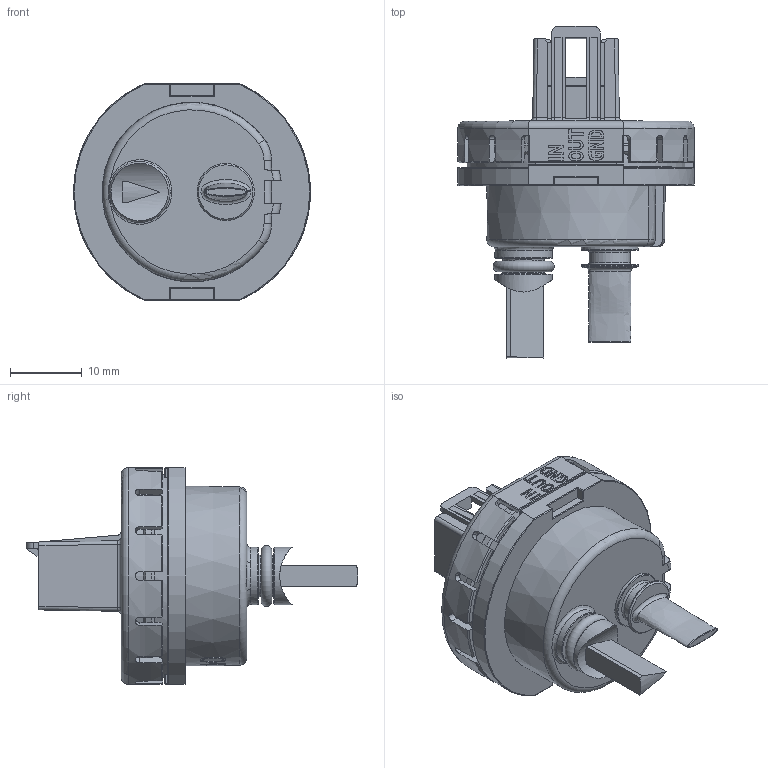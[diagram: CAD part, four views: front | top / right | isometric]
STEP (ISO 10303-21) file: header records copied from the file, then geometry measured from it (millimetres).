
FILE_DESCRIPTION(/* description */ (''),/* implementation_level */ '2;1');
FILE_NAME(/* name */ '201_x10x2x.stp',/* time_stamp */ '2023-06-28T09:54:15+02:00',/* author */ ('uch10180'),/* organization */ (''),/* preprocessor_version */ 'ST-DEVELOPER v19.2',/* originating_system */ 'Autodesk Inventor 2023',/* authorisation */ '');
FILE_SCHEMA (('AUTOMOTIVE_DESIGN { 1 0 10303 214 3 1 1 }'));
Length unit declared in the file: millimetre
Products named in the file (1): model1
Bounding box: 33 x 46.25 x 30.2 mm (x, y, z)
Volume: 12246.9 mm3; surface area: 5886.6 mm2
Topology: 1 solids, 1 shells, 735 faces, 2028 edges, 1315 vertices
Faces by surface type: plane 406, cylinder 171, bspline 76, cone 51, torus 27, sphere 4
Full cylindrical faces by diameter (mm): 1.145 x2, 5.76 x3, 7.98 x4
Entity records: 29353 total; most frequent: CARTESIAN_POINT 9930, ORIENTED_EDGE 4048, DIRECTION 3735, EDGE_CURVE 2024, VERTEX_POINT 1315, AXIS2_PLACEMENT_3D 1254, LINE 1227, VECTOR 1227
